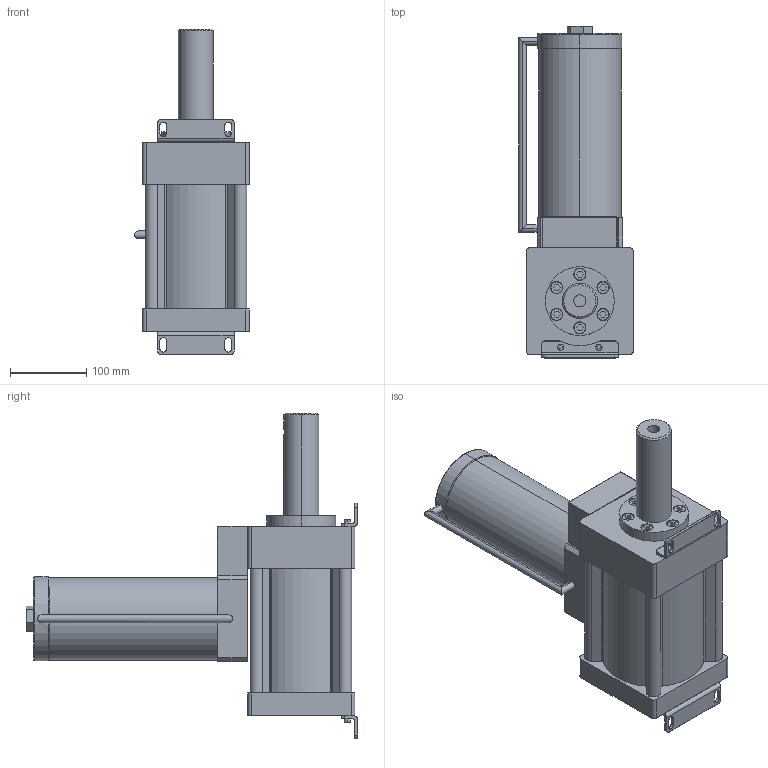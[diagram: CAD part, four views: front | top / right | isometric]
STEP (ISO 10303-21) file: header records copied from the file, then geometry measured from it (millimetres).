
FILE_DESCRIPTION (( 'STEP AP203' ), '1' );
FILE_NAME ('MHB-1217N70+YT63YT80YT100YT125.STEP', '2016-03-19T03:48:24', ( 'WIN' ), ( '' ), 'SwSTEP 2.0', 'SolidWorks 2014', '' );
FILE_SCHEMA (( 'CONFIG_CONTROL_DESIGN' ));
Length unit declared in the file: millimetre
Products named in the file (1): MHB-1217N70+YT63YT80YT100YT125
Bounding box: 150.08 x 434 x 426 mm (x, y, z)
Volume: 3675489.2 mm3; surface area: 588693.6 mm2
Topology: 1 solids, 13 shells, 422 faces, 997 edges, 650 vertices
Faces by surface type: plane 261, cylinder 155, torus 4, cone 2
Entity records: 12405 total; most frequent: CARTESIAN_POINT 2376, DIRECTION 2118, ORIENTED_EDGE 1994, EDGE_CURVE 997, AXIS2_PLACEMENT_3D 732, LINE 654, VECTOR 654, VERTEX_POINT 650
